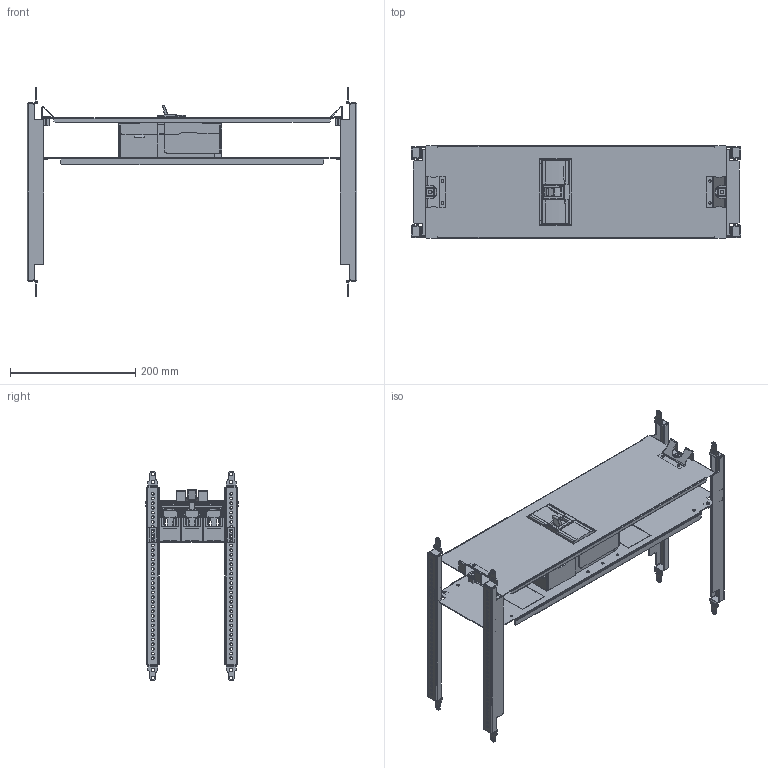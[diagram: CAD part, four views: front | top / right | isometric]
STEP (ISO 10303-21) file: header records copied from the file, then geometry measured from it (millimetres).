
FILE_DESCRIPTION(('CAx-IF Rec.Pracs.---Model Styling and Organization---1.2---2011-12-15','CAx-IF Rec.Pracs.---Geometric and Assembly Validation Properties---4.1---2014-06-16','CAx-IF Rec.Pracs.---PMI Polyline Presentation---2.0---2013-05-24'),'2;1');
FILE_NAME('R5PKIB7H61113.stp','2021-07-29T03:02:27+03:00',(''),(''),'STEP Interface 4.4 by CT CoreTechnologie','3D_Evolution4.4 by CT CoreTechnologie','');
FILE_SCHEMA(('AUTOMOTIVE_DESIGN { 1 0 10303 214 1 1 1 1 }'));
Length unit declared in the file: millimetre
Products named in the file (1): R5PKIB7H61113
Bounding box: 526 x 148 x 335 mm (x, y, z)
Surface area: 576629.9 mm2 (no closed solid volume)
Topology: 0 solids, 59 shells, 2097 faces, 7522 edges, 5369 vertices
Faces by surface type: plane 1152, cylinder 883, bspline 62
Entity records: 83077 total; most frequent: CARTESIAN_POINT 17341, DIRECTION 13426, ORIENTED_EDGE 13097, EDGE_CURVE 7503, VECTOR 5370, LINE 5370, VERTEX_POINT 5369, AXIS2_PLACEMENT_3D 4028
